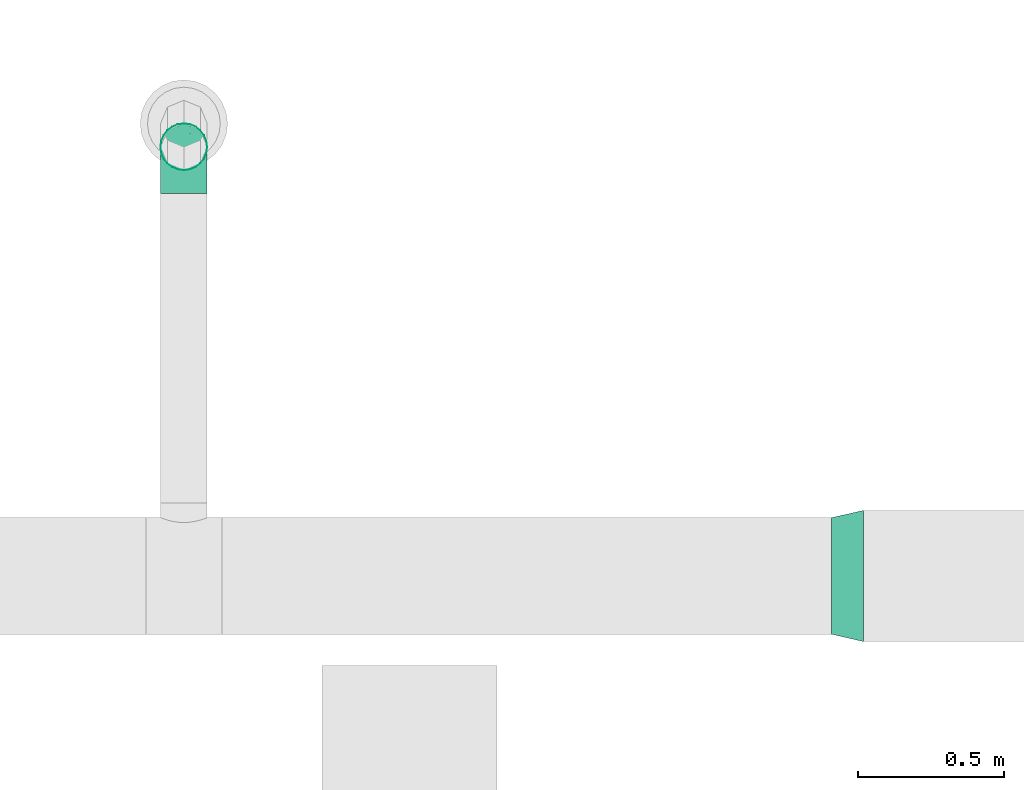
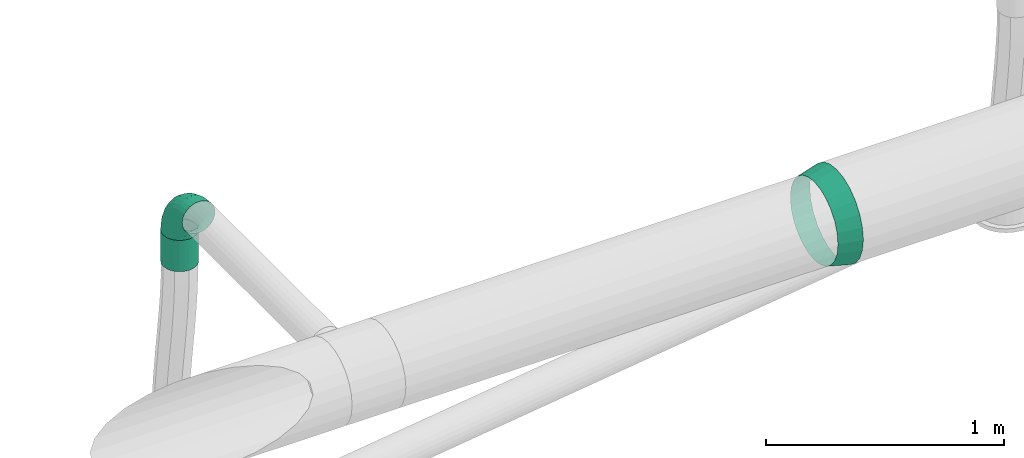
# One storey, part 153 of 374: 2 flow fittings, 1 flow segment.
"""IFC2X3 building model written with IfcOpenShell, lengths in metres."""

import ifcopenshell
import ifcopenshell.guid

model = None  # the IFC model being written
_history = None  # IfcOwnerHistory: only IFC2X3 demands one
_inside = {}  # id of a spatial element -> (the spatial element, [elements in it])
_under = {}  # id of a project, library or spatial element -> (it, [spatial elements below it])
_declared = {}  # id of a project -> (the project, [libraries it declares])
_typed = {}  # id of a type object -> (the type object, [elements of that type])
_made_of = {}  # id of a material, layer set ... -> (it, [elements and type objects made of it])


def new_model(schema):
    """Start an empty IFC model of exactly this schema.

    Asked for "IFC4X3", IfcOpenShell would pick the latest addendum, in which some entities
    have other attributes; the version numbers below select the first issue.
    IFC2X3 requires an IfcOwnerHistory on every rooted entity: one is made here for all.
    """
    global model, _history
    if schema == "IFC4X3":
        model = ifcopenshell.file(schema_version=(4, 3, 0, 0))
    else:
        model = ifcopenshell.file(schema=schema)
    _inside.clear()
    _under.clear()
    _declared.clear()
    _typed.clear()
    _made_of.clear()
    _history = None
    if model.schema == "IFC2X3":
        org = make("IfcOrganization", Name="unknown")
        user = make(
            "IfcPersonAndOrganization",
            ThePerson=make("IfcPerson", FamilyName="unknown"),
            TheOrganization=org,
        )
        app = make(
            "IfcApplication",
            ApplicationDeveloper=org,
            Version="unknown",
            ApplicationFullName="unknown",
            ApplicationIdentifier="unknown",
        )
        _history = make(
            "IfcOwnerHistory",
            OwningUser=user,
            OwningApplication=app,
            ChangeAction="ADDED",
            CreationDate=0,
        )
    return model


def make(cls, **values):
    """One entity of the class cls with the attributes given. An attribute that is None is left unset."""
    return model.create_entity(
        cls, **{name: value for name, value in values.items() if value is not None}
    )


def rooted(cls, **values):
    """An entity with a GlobalId (a new one), such as an element, a storey or a relation."""
    return make(cls, GlobalId=ifcopenshell.guid.new(), OwnerHistory=_history, **values)


def si_unit(unit_type, name, prefix=None):
    """IfcSIUnit, for example si_unit("LENGTHUNIT", "METRE", prefix="MILLI")."""
    return make("IfcSIUnit", UnitType=unit_type, Prefix=prefix, Name=name)


def assignment(units):
    """IfcUnitAssignment: the units of a project."""
    return None if units is None else make("IfcUnitAssignment", Units=units)


def point(xyz):
    """IfcCartesianPoint."""
    return None if xyz is None else make("IfcCartesianPoint", Coordinates=xyz)


def direction(xyz):
    """IfcDirection."""
    return None if xyz is None else make("IfcDirection", DirectionRatios=xyz)


def frame(location, z_axis=None, x_axis=None):
    """IfcAxis2Placement3D, a coordinate frame: its origin and axes. An axis left out is left unset."""
    return make(
        "IfcAxis2Placement3D",
        Location=point(location),
        Axis=direction(z_axis),
        RefDirection=direction(x_axis),
    )


def origin():
    """The frame at (0, 0, 0) with its axes left unset."""
    return frame((0.0, 0.0, 0.0))


def place(relative_to, where):
    """IfcLocalPlacement: puts the frame where relative to a parent placement (None: the world)."""
    return make(
        "IfcLocalPlacement", PlacementRelTo=relative_to, RelativePlacement=where
    )


def context(
    kind, dimensions, precision=None, world=None, true_north=None, identifier=None
):
    """IfcGeometricRepresentationContext, for example the 3D "Model" context."""
    return make(
        "IfcGeometricRepresentationContext",
        ContextIdentifier=identifier,
        ContextType=kind,
        CoordinateSpaceDimension=dimensions,
        Precision=precision,
        WorldCoordinateSystem=world,
        TrueNorth=true_north,
    )


def subcontext(parent, identifier, kind, view, scale=None):
    """IfcGeometricRepresentationSubContext, for example "Body" below "Model"."""
    return make(
        "IfcGeometricRepresentationSubContext",
        ContextIdentifier=identifier,
        ContextType=kind,
        ParentContext=parent,
        TargetScale=scale,
        TargetView=view,
    )


def project(units=None, contexts=None):
    """IfcProject with its units and contexts."""
    return rooted(
        "IfcProject",
        Name="project",
        RepresentationContexts=contexts,
        UnitsInContext=assignment(units),
    )


def spatial(cls, under=None, at=None, **own):
    """A site, building, storey or space (cls), placed at a placement, below another one or the project."""
    s = rooted(cls, ObjectPlacement=at, **own)
    if under is not None:
        _under.setdefault(under.id(), (under, []))[1].append(s)
    return s


def faces_of(points, faces, orient=None, outer=None):
    """IfcFace entities. A face is a list of loops; a loop is a list of indices into points, from 0.

    orient and outer hold one flag for each loop. By default every Orientation is true, the
    first loop of a face is its IfcFaceOuterBound and the others are IfcFaceBound.
    """
    made = []
    for i, loops in enumerate(faces):
        bounds = []
        for j, loop in enumerate(loops):
            is_outer = j == 0 if outer is None else outer[i][j]
            bounds.append(
                make(
                    "IfcFaceOuterBound" if is_outer else "IfcFaceBound",
                    Bound=make("IfcPolyLoop", Polygon=[points[k] for k in loop]),
                    Orientation=True if orient is None else orient[i][j],
                )
            )
        made.append(make("IfcFace", Bounds=bounds))
    return made


def open_shell(faces, orient=None, outer=None):
    """The faces of one IfcOpenShell. surface_model builds it on its shared points."""
    return ("IfcOpenShell", faces, orient, outer)


def surface_model(cls, points, shells):
    """IfcFaceBasedSurfaceModel or IfcShellBasedSurfaceModel (cls): surfaces that need not close."""
    shared = [point(p) for p in points]
    made = [make(c, CfsFaces=faces_of(shared, fs, o, b)) for c, fs, o, b in shells]
    if cls == "IfcFaceBasedSurfaceModel":
        return make(cls, FbsmFaces=made)
    return make(cls, SbsmBoundary=made)


def shape(context_of_items, identifier, shape_type, items):
    """IfcShapeRepresentation: the items that make up one representation, for example the "Body"."""
    return make(
        "IfcShapeRepresentation",
        ContextOfItems=context_of_items,
        RepresentationIdentifier=identifier,
        RepresentationType=shape_type,
        Items=items,
    )


def source(mapping_origin, context_of_items, identifier, shape_type, items):
    """IfcRepresentationMap: a shape defined once, which mapped items show again and again."""
    return make(
        "IfcRepresentationMap",
        MappingOrigin=mapping_origin,
        MappedRepresentation=shape(context_of_items, identifier, shape_type, items),
    )


def transform(
    local_origin,
    x_axis=None,
    y_axis=None,
    z_axis=None,
    scale=None,
    scale2=None,
    scale3=None,
    uniform=True,
):
    """IfcCartesianTransformationOperator3D, or its non-uniform kind. x_axis, y_axis, z_axis: its Axis1, 2, 3."""
    if uniform:
        return make(
            "IfcCartesianTransformationOperator3D",
            Axis1=direction(x_axis),
            Axis2=direction(y_axis),
            LocalOrigin=point(local_origin),
            Scale=scale,
            Axis3=direction(z_axis),
        )
    return make(
        "IfcCartesianTransformationOperator3DnonUniform",
        Axis1=direction(x_axis),
        Axis2=direction(y_axis),
        LocalOrigin=point(local_origin),
        Scale=scale,
        Axis3=direction(z_axis),
        Scale2=scale2,
        Scale3=scale3,
    )


def mapped(mapping_source, mapping_target):
    """IfcMappedItem: shows the shape of a source again, moved by a transform."""
    return make(
        "IfcMappedItem", MappingSource=mapping_source, MappingTarget=mapping_target
    )


def made_of(thing, what):
    """Note that an element or type object is made of a material, layer set ...; save() writes the relation."""
    if what is not None:
        _made_of.setdefault(what.id(), (what, []))[1].append(thing)
    return thing


def element(
    cls,
    number,
    at=None,
    inside=None,
    cuts=None,
    type_object=None,
    material=None,
    context=None,
    identifier="Body",
    shape_type=None,
    held_by="IfcProductDefinitionShape",
    body=None,
    shapes=None,
    **own,
):
    """One element of the class cls, such as IfcWall. Its Tag is "e" and its number.

    at: its placement. inside: the storey or other place that contains it. cuts: it is an
    opening in that element (IfcRelVoidsElement). A single representation is given by context,
    identifier, shape_type and body (its items); several are given by shapes. held_by: the class
    of the entity that holds the representations. save() writes the other relations.
    """
    e = rooted(cls, Tag="e%d" % number, ObjectPlacement=at, **own)
    if body is not None:
        shapes = [shape(context, identifier, shape_type, body)]
    if shapes is not None:
        e.Representation = make(held_by, Representations=shapes)
    if inside is not None:
        _inside.setdefault(inside.id(), (inside, []))[1].append(e)
    if cuts is not None:
        rooted(
            "IfcRelVoidsElement", RelatingBuildingElement=cuts, RelatedOpeningElement=e
        )
    if type_object is not None:
        _typed.setdefault(type_object.id(), (type_object, []))[1].append(e)
    return made_of(e, material)


def aggregate(whole, parts):
    """IfcRelAggregates: a whole, such as a stair, and the parts it consists of."""
    return rooted("IfcRelAggregates", RelatingObject=whole, RelatedObjects=parts)


def save(model, path):
    """Write the relations noted so far, then the file.

    IfcRelAggregates (storeys below a building ...), IfcRelContainedInSpatialStructure (elements
    in a storey), IfcRelDefinesByType, IfcRelAssociatesMaterial and IfcRelDeclares: one each for
    every whole, place, type object, material and project.
    """
    for whole, parts in _under.values():
        aggregate(whole, parts)
    for where, things in _inside.values():
        rooted(
            "IfcRelContainedInSpatialStructure",
            RelatedElements=things,
            RelatingStructure=where,
        )
    for kind, things in _typed.values():
        rooted("IfcRelDefinesByType", RelatedObjects=things, RelatingType=kind)
    for what, things in _made_of.values():
        rooted("IfcRelAssociatesMaterial", RelatedObjects=things, RelatingMaterial=what)
    for by, libraries in _declared.values():
        rooted("IfcRelDeclares", RelatingContext=by, RelatedDefinitions=libraries)
    model.write(path)


model = new_model("IFC2X3")

# Units and contexts
model_context = context("Model", 3, precision=1e-05, world=origin(), true_north=direction((-0.4480736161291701, 0.8939966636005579)))
body_context = subcontext(model_context, "Body", "Model", "MODEL_VIEW")
ifc_project = project(units=[si_unit("LENGTHUNIT", "METRE"), si_unit("AREAUNIT", "SQUARE_METRE"), si_unit("VOLUMEUNIT", "CUBIC_METRE"), si_unit("PLANEANGLEUNIT", "RADIAN"), si_unit("THERMODYNAMICTEMPERATUREUNIT", "KELVIN"), si_unit("MASSUNIT", "GRAM", prefix="KILO"), si_unit("TIMEUNIT", "SECOND")], contexts=[model_context])

# Site, building, storey
site_placement = place(None, origin())
site = spatial("IfcSite", under=ifc_project, at=site_placement, Name="Site 1", CompositionType="ELEMENT")
building_placement = place(site_placement, origin())
building = spatial("IfcBuilding", under=site, at=building_placement, Name="Undefined", CompositionType="ELEMENT")
storey_placement = place(building_placement, origin())
storey = spatial("IfcBuildingStorey", under=building, at=storey_placement, Name="Rez de chauss\x8ee", CompositionType="ELEMENT", Elevation=0.0)

# Flow fittings
shared_shape_1 = source(origin(), body_context, "Body", "SurfaceModel", [
    surface_model("IfcFaceBasedSurfaceModel", [(0.06265257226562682, -8.8817842e-16, 0.0), (0.062296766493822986, 0.02088115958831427, -7.105427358e-15), (0.0003558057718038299, 0.020881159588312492, 7.105427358e-15), (0.0, 0.0, 0.0), (-0.059474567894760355, 0.022956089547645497, -0.015896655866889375), (-0.06051773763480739, 0.002098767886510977, -0.01607928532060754), (-0.11311701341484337, 0.02696454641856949, -0.04660663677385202), (-0.11477645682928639, 0.006153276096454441, -0.04714207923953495), (-0.15691588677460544, 0.0326333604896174, -0.09003710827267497), (-0.15907851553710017, 0.01188721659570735, -0.09107150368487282), (-0.18788636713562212, 0.03957621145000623, -0.14322835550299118), (-0.1904048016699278, 0.01890983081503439, -0.14487384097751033), (-0.2039178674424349, 0.04731995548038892, -0.20255548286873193), (-0.20662048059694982, 0.026742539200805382, -0.20488255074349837), (0.061253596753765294, 0.04103889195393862, -0.0053597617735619), (0.0013989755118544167, 0.04103889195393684, -0.005359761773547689), (-0.05641614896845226, 0.04304393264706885, -0.02072097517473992), (-0.10825177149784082, 0.04691737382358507, -0.050396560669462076), (-0.15057538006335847, 0.05239524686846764, -0.09236417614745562), (-0.18050269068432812, 0.05910424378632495, -0.14376379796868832), (-0.19599420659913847, 0.06658715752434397, -0.20109262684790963), (0.05959415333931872, 0.05909948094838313, -0.01571402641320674), (0.003058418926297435, 0.05909948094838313, -0.01571402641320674), (-0.05155090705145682, 0.06099334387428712, -0.030223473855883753), (-0.10051228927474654, 0.06465200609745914, -0.058253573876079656), (-0.1404890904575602, 0.0698261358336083, -0.09789412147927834), (-0.16875695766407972, 0.0761631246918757, -0.14644367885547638), (-0.18338948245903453, 0.08323111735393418, -0.2005936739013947), (0.057431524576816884, 0.07383212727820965, -0.030357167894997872), (0.005221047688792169, 0.07383212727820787, -0.03035716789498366), (-0.0452104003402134, 0.07558110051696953, -0.04375657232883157), (-0.09042599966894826, 0.07895985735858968, -0.06964223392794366), (-0.12734438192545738, 0.08373814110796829, -0.10625008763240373), (-0.15344962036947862, 0.08959031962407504, -0.15108536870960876), (-0.16696268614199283, 0.0961175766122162, -0.20109262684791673), (0.054913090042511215, 0.0842328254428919, -0.048291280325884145), (0.007739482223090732, 0.08423282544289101, -0.04829128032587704), (-0.037826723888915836, 0.08581307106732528, -0.06039801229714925), (-0.07868026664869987, 0.08886587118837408, -0.08378642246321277), (-0.11203704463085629, 0.09318318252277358, -0.11686262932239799), (-0.13562384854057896, 0.09847078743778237, -0.1573725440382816), (-0.14783327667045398, 0.10436834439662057, -0.20255548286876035), (0.05221047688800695, 0.0895927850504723, -0.06829418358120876), (0.010442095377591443, 0.08959278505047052, -0.06829418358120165), (-0.029903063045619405, 0.09099196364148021, -0.07901370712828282), (-0.06607554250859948, 0.09369496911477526, -0.0997222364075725), (-0.0956102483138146, 0.0975175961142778, -0.12900851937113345), (-0.11649443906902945, 0.10219933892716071, -0.16487674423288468), (-0.12730489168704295, 0.1074211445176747, -0.2048825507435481), (0.04950786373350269, 0.08954673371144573, -0.08900271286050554), (0.013144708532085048, 0.08954673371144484, -0.08900271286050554), (-0.02197940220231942, 0.09076484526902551, -0.09833502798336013), (-0.05347081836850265, 0.09311805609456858, -0.11636367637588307), (-0.0791834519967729, 0.09644599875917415, -0.14186003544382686), (-0.09736502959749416, 0.10052187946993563, -0.17308657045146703), (-0.10677650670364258, 0.1050679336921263, -0.20791524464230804), (0.04698942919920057, 0.08409780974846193, -0.10900561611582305), (0.015663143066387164, 0.08409780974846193, -0.10900561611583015), (-0.014595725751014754, 0.08514719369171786, -0.11704525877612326), (-0.0417250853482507, 0.0871744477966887, -0.13257665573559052), (-0.06387611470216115, 0.09004141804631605, -0.15454136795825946), (-0.07953925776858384, 0.09355272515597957, -0.1814425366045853), (-0.08764709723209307, 0.09746907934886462, -0.21144689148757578), (0.04482680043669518, 0.0736173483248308, -0.12693972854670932), (0.017825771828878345, 0.0736173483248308, -0.12693972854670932), (-0.008255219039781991, 0.07452184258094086, -0.13386932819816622), (-0.03163879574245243, 0.0762691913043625, -0.14725628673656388), (-0.050731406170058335, 0.07874031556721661, -0.1661883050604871), (-0.06423192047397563, 0.08176681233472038, -0.18937519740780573), (-0.07122030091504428, 0.08514243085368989, -0.21523681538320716), (0.04316735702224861, 0.058819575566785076, -0.14158287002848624), (0.019485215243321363, 0.058819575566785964, -0.14158287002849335), (-0.0033899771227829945, 0.05961289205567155, -0.14766070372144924), (-0.02389931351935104, 0.06114546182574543, -0.15940217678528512), (-0.04064511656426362, 0.06331284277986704, -0.17600712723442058), (-0.052486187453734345, 0.06596733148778, -0.19634395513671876), (-0.05861557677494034, 0.06892802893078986, -0.2190267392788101), (0.04212418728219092, 0.040712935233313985, -0.15193713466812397), (0.020528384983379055, 0.040712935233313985, -0.15193713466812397), (-0.0003315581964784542, 0.041436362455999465, -0.15747952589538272), (-0.019034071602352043, 0.04283391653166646, -0.16818660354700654), (-0.03430460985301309, 0.04481035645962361, -0.1833286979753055), (-0.04510251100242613, 0.047230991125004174, -0.20187390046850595), (-0.05069191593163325, 0.04993085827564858, -0.22255838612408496), (0.04176838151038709, 0.02053136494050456, -0.15729689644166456), (0.020884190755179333, 0.02053136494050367, -0.15729689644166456), (0.0007116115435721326, 0.021230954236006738, -0.16265665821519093), (-0.017374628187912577, 0.022582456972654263, -0.17301092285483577), (-0.03214198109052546, 0.024493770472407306, -0.1876540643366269), (-0.042584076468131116, 0.026834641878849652, -0.20558817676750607), (-0.04798930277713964, 0.02944554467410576, -0.22559108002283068), (0.04212418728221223, -0.000349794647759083, -0.15729689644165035), (0.020528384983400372, -0.000349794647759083, -0.15729689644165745), (-0.0003315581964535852, 0.00037363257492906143, -0.1628392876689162), (-0.019034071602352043, 0.0017711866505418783, -0.17354636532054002), (-0.03430460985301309, 0.0037476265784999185, -0.18868845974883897), (-0.04510251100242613, 0.00616826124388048, -0.20723366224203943), (-0.05069191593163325, 0.008868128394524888, -0.22791814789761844), (0.04316735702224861, -0.020507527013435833, -0.15193713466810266), (0.019485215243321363, -0.020507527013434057, -0.15193713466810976), (-0.0033899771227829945, -0.019714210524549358, -0.15801496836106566), (-0.02389931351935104, -0.01818164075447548, -0.16975644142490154), (-0.04064511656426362, -0.01601425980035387, -0.186361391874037), (-0.052486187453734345, -0.013359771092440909, -0.20669821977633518), (-0.05861557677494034, -0.010399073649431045, -0.22938100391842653), (0.04482680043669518, -0.03856811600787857, -0.1415828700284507), (0.017825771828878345, -0.03856811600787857, -0.1415828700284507), (-0.008255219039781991, -0.03766362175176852, -0.1485124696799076), (-0.03163879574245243, -0.03591627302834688, -0.16189942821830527), (-0.050731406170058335, -0.03344514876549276, -0.1808314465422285), (-0.06423192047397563, -0.030418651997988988, -0.20401833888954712), (-0.07122030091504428, -0.027043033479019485, -0.22987995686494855), (0.04698942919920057, -0.05330076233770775, -0.12693972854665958), (0.015663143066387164, -0.05330076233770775, -0.12693972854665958), (-0.014595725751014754, -0.05225137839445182, -0.1349793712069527), (-0.0417250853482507, -0.05022412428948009, -0.15051076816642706), (-0.06387611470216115, -0.047357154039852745, -0.172475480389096), (-0.07953925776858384, -0.043845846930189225, -0.19937664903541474), (-0.08764709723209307, -0.03992949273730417, -0.2293810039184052), (0.04950786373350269, -0.06370146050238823, -0.10900561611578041), (0.013144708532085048, -0.06370146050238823, -0.10900561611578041), (-0.02197940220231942, -0.06248334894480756, -0.11833793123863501), (-0.05347081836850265, -0.06013013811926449, -0.13636657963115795), (-0.0791834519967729, -0.05680219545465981, -0.16186293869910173), (-0.09736502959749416, -0.05272631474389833, -0.1930894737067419), (-0.10677650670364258, -0.04818026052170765, -0.2279181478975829), (0.05221047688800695, -0.06906142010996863, -0.08900271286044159), (0.010442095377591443, -0.06906142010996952, -0.08900271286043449), (-0.029903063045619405, -0.06766224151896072, -0.09972223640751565), (-0.06607554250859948, -0.06495923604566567, -0.12043076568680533), (-0.0956102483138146, -0.06113660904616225, -0.14971704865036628), (-0.11649443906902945, -0.05645486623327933, -0.1855852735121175), (-0.12730489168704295, -0.05123306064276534, -0.22559108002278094), (0.054913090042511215, -0.06901536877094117, -0.06829418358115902), (0.007739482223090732, -0.06901536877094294, -0.06829418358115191), (-0.037826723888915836, -0.06743512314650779, -0.08040091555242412), (-0.07868026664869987, -0.06438232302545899, -0.10378932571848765), (-0.11203704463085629, -0.06006501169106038, -0.13686553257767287), (-0.13562384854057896, -0.0547774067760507, -0.17737544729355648), (-0.14783327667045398, -0.04887984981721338, -0.22255838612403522), (0.057431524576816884, -0.06356644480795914, -0.0482912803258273), (0.005221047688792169, -0.06356644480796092, -0.04829128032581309), (-0.0452104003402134, -0.061817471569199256, -0.0616906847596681), (-0.09042599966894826, -0.05843871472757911, -0.0875763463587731), (-0.12734438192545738, -0.05366043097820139, -0.12418420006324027), (-0.15344962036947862, -0.04780825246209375, -0.1690194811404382), (-0.16696268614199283, -0.041280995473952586, -0.21902673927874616), (0.05959415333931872, -0.05308598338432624, -0.030357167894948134), (0.003058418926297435, -0.05308598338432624, -0.030357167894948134), (-0.05155090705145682, -0.05119212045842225, -0.04486661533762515), (-0.10051228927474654, -0.04753345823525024, -0.07289671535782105), (-0.1404890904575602, -0.04235932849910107, -0.11253726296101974), (-0.16875695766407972, -0.03602233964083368, -0.16108682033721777), (-0.18338948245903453, -0.02895434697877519, -0.2152368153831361), (0.061253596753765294, -0.03828821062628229, -0.015714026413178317), (0.0013989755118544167, -0.03828821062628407, -0.015714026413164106), (-0.05641614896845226, -0.03628316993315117, -0.031075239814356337), (-0.10825177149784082, -0.03240972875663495, -0.06075082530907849), (-0.15057538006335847, -0.026931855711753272, -0.10271844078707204), (-0.18050269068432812, -0.02022285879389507, -0.15411806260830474), (-0.19599420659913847, -0.012739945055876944, -0.21144689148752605), (0.062296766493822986, -0.020181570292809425, -0.005359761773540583), (0.0003558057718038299, -0.020181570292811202, -0.0053597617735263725), (-0.059474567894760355, -0.018106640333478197, -0.021256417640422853), (-0.11311701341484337, -0.014098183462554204, -0.051966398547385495), (-0.15691588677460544, -0.00842936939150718, -0.09539687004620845), (-0.18788636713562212, -0.0014865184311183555, -0.14858811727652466), (-0.2039178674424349, 0.006257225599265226, -0.2079152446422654)], [open_shell([[[0, 1, 2, 3]], [[3, 2, 4, 5]], [[5, 4, 6, 7]], [[7, 6, 8, 9]], [[9, 8, 10, 11]], [[11, 10, 12, 13]], [[1, 14, 15, 2]], [[2, 15, 16, 4]], [[4, 16, 17, 6]], [[6, 17, 18, 8]], [[8, 18, 19, 10]], [[10, 19, 20, 12]], [[14, 21, 22, 15]], [[15, 22, 23, 16]], [[16, 23, 24, 17]], [[17, 24, 25, 18]], [[18, 25, 26, 19]], [[19, 26, 27, 20]], [[21, 28, 29, 22]], [[22, 29, 30, 23]], [[23, 30, 31, 24]], [[24, 31, 32, 25]], [[25, 32, 33, 26]], [[26, 33, 34, 27]], [[28, 35, 36, 29]], [[29, 36, 37, 30]], [[30, 37, 38, 31]], [[31, 38, 39, 32]], [[32, 39, 40, 33]], [[33, 40, 41, 34]], [[35, 42, 43, 36]], [[36, 43, 44, 37]], [[37, 44, 45, 38]], [[38, 45, 46, 39]], [[39, 46, 47, 40]], [[40, 47, 48, 41]], [[42, 49, 50, 43]], [[43, 50, 51, 44]], [[44, 51, 52, 45]], [[45, 52, 53, 46]], [[46, 53, 54, 47]], [[47, 54, 55, 48]], [[49, 56, 57, 50]], [[50, 57, 58, 51]], [[51, 58, 59, 52]], [[52, 59, 60, 53]], [[53, 60, 61, 54]], [[54, 61, 62, 55]], [[56, 63, 64, 57]], [[57, 64, 65, 58]], [[58, 65, 66, 59]], [[59, 66, 67, 60]], [[60, 67, 68, 61]], [[61, 68, 69, 62]], [[63, 70, 71, 64]], [[64, 71, 72, 65]], [[65, 72, 73, 66]], [[66, 73, 74, 67]], [[67, 74, 75, 68]], [[68, 75, 76, 69]], [[70, 77, 78, 71]], [[71, 78, 79, 72]], [[72, 79, 80, 73]], [[73, 80, 81, 74]], [[74, 81, 82, 75]], [[75, 82, 83, 76]], [[77, 84, 85, 78]], [[78, 85, 86, 79]], [[79, 86, 87, 80]], [[80, 87, 88, 81]], [[81, 88, 89, 82]], [[82, 89, 90, 83]], [[84, 91, 92, 85]], [[85, 92, 93, 86]], [[86, 93, 94, 87]], [[87, 94, 95, 88]], [[88, 95, 96, 89]], [[89, 96, 97, 90]], [[91, 98, 99, 92]], [[92, 99, 100, 93]], [[93, 100, 101, 94]], [[94, 101, 102, 95]], [[95, 102, 103, 96]], [[96, 103, 104, 97]], [[98, 105, 106, 99]], [[99, 106, 107, 100]], [[100, 107, 108, 101]], [[101, 108, 109, 102]], [[102, 109, 110, 103]], [[103, 110, 111, 104]], [[105, 112, 113, 106]], [[106, 113, 114, 107]], [[107, 114, 115, 108]], [[108, 115, 116, 109]], [[109, 116, 117, 110]], [[110, 117, 118, 111]], [[112, 119, 120, 113]], [[113, 120, 121, 114]], [[114, 121, 122, 115]], [[115, 122, 123, 116]], [[116, 123, 124, 117]], [[117, 124, 125, 118]], [[119, 126, 127, 120]], [[120, 127, 128, 121]], [[121, 128, 129, 122]], [[122, 129, 130, 123]], [[123, 130, 131, 124]], [[124, 131, 132, 125]], [[126, 133, 134, 127]], [[127, 134, 135, 128]], [[128, 135, 136, 129]], [[129, 136, 137, 130]], [[130, 137, 138, 131]], [[131, 138, 139, 132]], [[133, 140, 141, 134]], [[134, 141, 142, 135]], [[135, 142, 143, 136]], [[136, 143, 144, 137]], [[137, 144, 145, 138]], [[138, 145, 146, 139]], [[140, 147, 148, 141]], [[141, 148, 149, 142]], [[142, 149, 150, 143]], [[143, 150, 151, 144]], [[144, 151, 152, 145]], [[145, 152, 153, 146]], [[147, 154, 155, 148]], [[148, 155, 156, 149]], [[149, 156, 157, 150]], [[150, 157, 158, 151]], [[151, 158, 159, 152]], [[152, 159, 160, 153]], [[154, 161, 162, 155]], [[155, 162, 163, 156]], [[156, 163, 164, 157]], [[157, 164, 165, 158]], [[158, 165, 166, 159]], [[159, 166, 167, 160]], [[161, 0, 3, 162]], [[162, 3, 5, 163]], [[163, 5, 7, 164]], [[164, 7, 9, 165]], [[165, 9, 11, 166]], [[166, 11, 13, 167]]])]),
])
flow_fitting_1_placement = place(storey_placement, origin())
element("IfcFlowFitting", 1, at=flow_fitting_1_placement, inside=storey, Name="Coude", ObjectType="Coude", context=body_context, shape_type="MappedRepresentation", body=[
    mapped(shared_shape_1, transform((41.5011844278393, 22.070735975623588, 3.7021165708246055), x_axis=(0.0, 0.13052619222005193, -0.9914448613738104), y_axis=(-0.9915887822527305, -0.12832103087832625, -0.016893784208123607), z_axis=(-0.12942830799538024, 0.9831056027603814, 0.12942830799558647))),
])
shared_shape_2 = source(origin(), body_context, "Body", "SurfaceModel", [
    surface_model("IfcFaceBasedSurfaceModel", [(0.11183022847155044, 1.776356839e-15, 3.552713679e-15), (0.11011631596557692, 0.05871177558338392, 1.776356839e-15), (-0.00152347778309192, 0.05218824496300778, 3.552713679e-15), (0.0, 0.0, 0.0), (0.10509137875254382, 0.11532463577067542, -0.014823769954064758), (-0.005990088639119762, 0.10251078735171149, -0.01317668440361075), (0.09709785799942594, 0.16598050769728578, -0.04346109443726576), (-0.013095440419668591, 0.14753822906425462, -0.038632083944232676), (0.08668049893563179, 0.20722727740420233, -0.08396038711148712), (-0.022355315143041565, 0.18420202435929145, -0.0746314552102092), (0.07454922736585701, 0.23625404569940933, -0.13356168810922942), (-0.03313866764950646, 0.2100035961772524, -0.11872150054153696), (0.061530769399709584, 0.2510826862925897, -0.18888475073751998), (-0.04471063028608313, 0.22318461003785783, -0.167897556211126), (0.04851231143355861, 0.2507026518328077, -0.24615939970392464), (-0.0562825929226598, 0.22284680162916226, -0.21880835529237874), (0.03638103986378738, 0.23513984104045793, -0.3014824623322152), (-0.0670659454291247, 0.2090131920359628, -0.2679844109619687), (0.025963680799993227, 0.20545483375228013, -0.3510837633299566), (-0.07632582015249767, 0.1826265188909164, -0.31207445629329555), (0.01797016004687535, 0.16367061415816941, -0.39158305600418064), (-0.0834311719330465, 0.14548499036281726, -0.3480738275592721), (0.012945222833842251, 0.1126347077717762, -0.4202203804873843), (-0.08789778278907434, 0.10011974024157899, -0.3735292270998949), (0.011231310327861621, 0.055825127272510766, -0.4350441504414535), (-0.08942126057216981, 0.04962233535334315, -0.38670591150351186), (0.012945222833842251, -0.0028866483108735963, -0.4350441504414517), (-0.08789778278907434, -0.0025659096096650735, -0.3867059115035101), (0.01797016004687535, -0.05949950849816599, -0.4202203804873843), (-0.0834311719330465, -0.05288845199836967, -0.37352922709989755), (0.025963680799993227, -0.1101553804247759, -0.3915830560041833), (-0.07632582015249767, -0.09791589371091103, -0.34807382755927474), (0.03638103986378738, -0.1514021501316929, -0.35108376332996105), (-0.0670659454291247, -0.13457968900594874, -0.3120744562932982), (0.04851231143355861, -0.180428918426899, -0.30148246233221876), (-0.0562825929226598, -0.16038126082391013, -0.267984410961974), (0.061530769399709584, -0.19525755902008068, -0.2461593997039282), (-0.04471063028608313, -0.17356227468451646, -0.21880835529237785), (0.07454922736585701, -0.1948775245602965, -0.18888475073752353), (-0.03313866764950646, -0.1732244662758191, -0.16789755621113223), (0.08668049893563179, -0.1793147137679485, -0.13356168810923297), (-0.022355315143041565, -0.15939085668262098, -0.11872150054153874), (0.09709785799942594, -0.1496297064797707, -0.08396038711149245), (-0.013095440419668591, -0.13300418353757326, -0.07463145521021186), (0.10509137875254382, -0.10784548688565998, -0.04346109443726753), (-0.005990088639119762, -0.09586265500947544, -0.03863208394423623), (0.11011631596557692, -0.05680958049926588, -0.014823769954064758), (-0.00152347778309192, -0.05049740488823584, -0.013176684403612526)], [open_shell([[[0, 1, 2, 3]], [[1, 4, 5, 2]], [[4, 6, 7, 5]], [[6, 8, 9, 7]], [[8, 10, 11, 9]], [[10, 12, 13, 11]], [[12, 14, 15, 13]], [[14, 16, 17, 15]], [[16, 18, 19, 17]], [[18, 20, 21, 19]], [[20, 22, 23, 21]], [[22, 24, 25, 23]], [[24, 26, 27, 25]], [[26, 28, 29, 27]], [[28, 30, 31, 29]], [[30, 32, 33, 31]], [[32, 34, 35, 33]], [[34, 36, 37, 35]], [[36, 38, 39, 37]], [[38, 40, 41, 39]], [[40, 42, 43, 41]], [[42, 44, 45, 43]], [[44, 46, 47, 45]], [[46, 0, 3, 47]]])]),
])
flow_fitting_2_placement = place(storey_placement, origin())
element("IfcFlowFitting", 2, at=flow_fitting_2_placement, inside=storey, Name="Réduction conique", ObjectType="Réduction conique", context=body_context, shape_type="MappedRepresentation", body=[
    mapped(shared_shape_2, transform((43.72355387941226, 20.726888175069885, 3.8000000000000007), x_axis=(0.9746917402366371, 0.2235531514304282, 0.0), y_axis=(0.02845317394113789, -0.1240558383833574, -0.9918672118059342), z_axis=(-0.2217350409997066, 0.966764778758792, -0.12727699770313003))),
])

# Flow segment
shared_shape_3 = source(origin(), body_context, "Body", "SurfaceModel", [
    surface_model("IfcFaceBasedSurfaceModel", [(0.0, 0.020884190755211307, 0.0), (0.0, 0.0, 0.0), (0.16000000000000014, 0.0, -4.4408921e-16), (0.16000000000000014, 0.0208841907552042, -4.4408921e-16), (0.0, -0.020172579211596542, -0.005405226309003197), (0.16000000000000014, -0.020172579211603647, -0.005405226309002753), (0.0, -0.03825881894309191, -0.015847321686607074), (0.16000000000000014, -0.03825881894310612, -0.015847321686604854), (0.0, -0.05302617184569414, -0.0306146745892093), (0.16000000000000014, -0.05302617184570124, -0.03061467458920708), (0.0, -0.06346826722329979, -0.04870091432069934), (0.16000000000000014, -0.0634682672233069, -0.04870091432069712), (0.0, -0.06887349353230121, -0.06887349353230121), (0.16000000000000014, -0.06887349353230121, -0.06887349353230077), (0.0, -0.06887349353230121, -0.08975768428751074), (0.16000000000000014, -0.06887349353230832, -0.08975768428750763), (0.0, -0.06346826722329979, -0.10993026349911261), (0.16000000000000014, -0.0634682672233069, -0.10993026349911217), (0.0, -0.05302617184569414, -0.12801650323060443), (0.16000000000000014, -0.05302617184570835, -0.1280165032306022), (0.0, -0.038258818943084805, -0.14278385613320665), (0.16000000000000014, -0.03825881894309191, -0.14278385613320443), (0.0, -0.020172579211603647, -0.15322595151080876), (0.16000000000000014, -0.020172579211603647, -0.1532259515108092), (0.0, 7.105427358e-15, -0.15863117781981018), (0.16000000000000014, -7.105427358e-15, -0.15863117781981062), (0.0, 0.020884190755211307, -0.15863117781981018), (0.16000000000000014, 0.0208841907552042, -0.15863117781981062), (0.0, 0.04105676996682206, -0.15322595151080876), (0.16000000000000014, 0.04105676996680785, -0.1532259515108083), (0.0, 0.05914300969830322, -0.1427838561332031), (0.16000000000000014, 0.05914300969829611, -0.14278385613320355), (0.0, 0.07391036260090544, -0.12801650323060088), (0.16000000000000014, 0.07391036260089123, -0.1280165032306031), (0.0, 0.0843524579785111, -0.10993026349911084), (0.16000000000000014, 0.08435245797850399, -0.10993026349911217), (0.0, 0.08975768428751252, -0.08975768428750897), (0.16000000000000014, 0.08975768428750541, -0.08975768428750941), (0.0, 0.08975768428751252, -0.06887349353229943), (0.16000000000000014, 0.08975768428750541, -0.06887349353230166), (0.0, 0.0843524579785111, -0.048700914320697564), (0.16000000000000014, 0.08435245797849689, -0.04870091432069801), (0.0, 0.07391036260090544, -0.030614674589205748), (0.16000000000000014, 0.07391036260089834, -0.03061467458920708), (0.0, 0.05914300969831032, -0.015847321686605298), (0.16000000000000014, 0.05914300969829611, -0.01584732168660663), (0.0, 0.04105676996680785, -0.005405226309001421), (0.16000000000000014, 0.04105676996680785, -0.005405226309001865)], [open_shell([[[0, 1, 2, 3]], [[1, 4, 5, 2]], [[4, 6, 7, 5]], [[6, 8, 9, 7]], [[8, 10, 11, 9]], [[10, 12, 13, 11]], [[12, 14, 15, 13]], [[14, 16, 17, 15]], [[16, 18, 19, 17]], [[18, 20, 21, 19]], [[20, 22, 23, 21]], [[22, 24, 25, 23]], [[24, 26, 27, 25]], [[26, 28, 29, 27]], [[28, 30, 31, 29]], [[30, 32, 33, 31]], [[32, 34, 35, 33]], [[34, 36, 37, 35]], [[36, 38, 39, 37]], [[38, 40, 41, 39]], [[40, 42, 43, 41]], [[42, 44, 45, 43]], [[44, 46, 47, 45]], [[46, 0, 3, 47]]])]),
])
flow_segment_placement = place(storey_placement, origin())
element("IfcFlowSegment", 3, at=flow_segment_placement, inside=storey, Name="Tube", ObjectType="Tube", context=body_context, shape_type="MappedRepresentation", body=[
    mapped(shared_shape_3, transform((41.5218899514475, 21.92163971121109, 3.4800000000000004), x_axis=(0.0, 0.0, 1.0), y_axis=(-0.9914448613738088, -0.13052619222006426, 0.0), z_axis=(0.13052619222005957, -0.9914448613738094, 0.0))),
])

save(model, "model.ifc")
